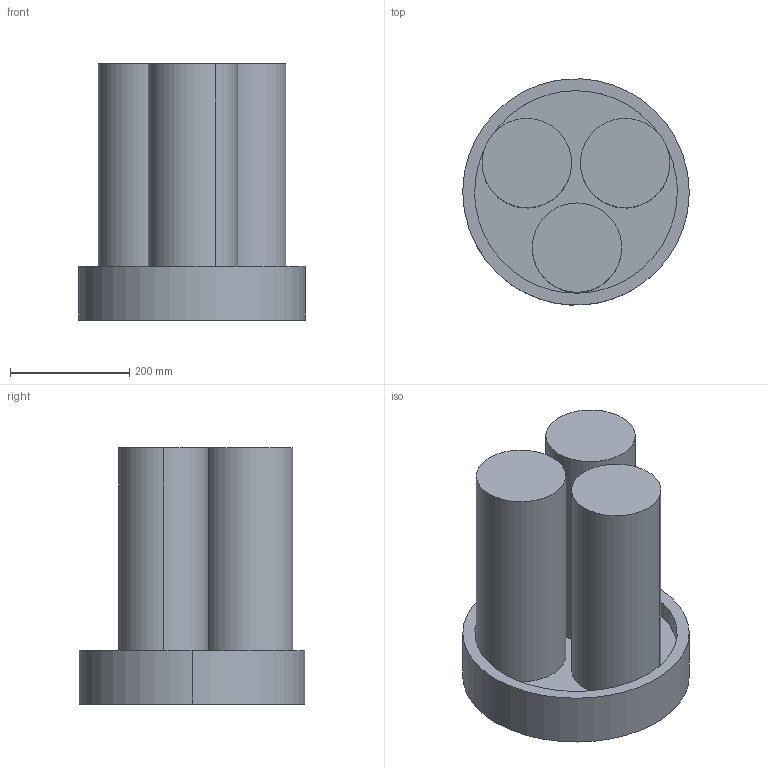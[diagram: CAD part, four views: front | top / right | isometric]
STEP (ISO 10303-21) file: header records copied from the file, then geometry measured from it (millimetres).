
FILE_DESCRIPTION(/* description */ (''),/* implementation_level */ '2;1');
FILE_NAME(/* name */ 'BFS',/* time_stamp */ '2020-03-02T14:49:34+01:00',/* author */ (''),/* organization */ (''),/* preprocessor_version */ 'ST-DEVELOPER v15',/* originating_system */ '',/* authorisation */ '');
FILE_SCHEMA (('AUTOMOTIVE_DESIGN'));
Length unit declared in the file: millimetre
Products named in the file (1): Document
Bounding box: 380 x 379.37 x 430 mm (x, y, z)
Volume: 27165422.5 mm3; surface area: 1260099.2 mm2
Topology: 5 solids, 5 shells, 23 faces, 36 edges, 24 vertices
Faces by surface type: bspline 12, plane 11
Entity records: 574 total; most frequent: CARTESIAN_POINT 301, ORIENTED_EDGE 72, EDGE_CURVE 36, EDGE_LOOP 24, VERTEX_POINT 24, ADVANCED_FACE 23, FACE_OUTER_BOUND 23, DIRECTION 15
